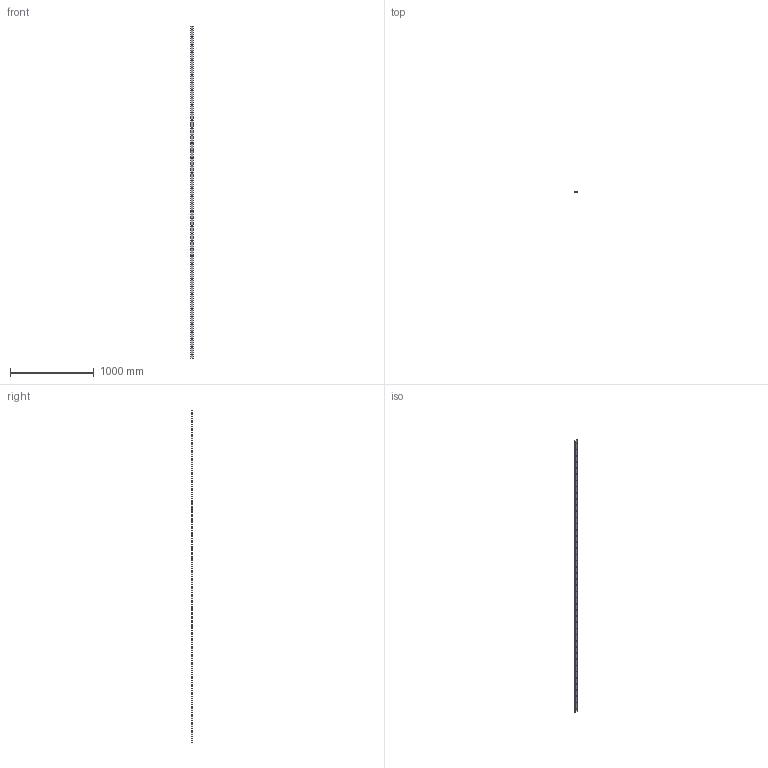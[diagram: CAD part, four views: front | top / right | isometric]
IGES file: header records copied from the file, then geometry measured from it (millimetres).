
Start section: 3D InterOp IGES (v. 2019 1.0.2), Spatial Corp. Copyright (c) 1999-2017.
Global section: file name: SS S35 3956.igs; native system: Spatial Corp.; preprocessor: 3D InterOp GENERIC/IGES 3.0; author: Noname; organization: Noname; date: 20220628.112210; units: millimetre
Bounding box: 34.68 x 4.7 x 3956 mm (x, y, z)
Surface area: 290888 mm2 (no closed solid volume)
Topology: 0 solids, 0 shells, 100 faces, 588 edges, 588 vertices
Faces by surface type: revolution 92, extrusion 8
